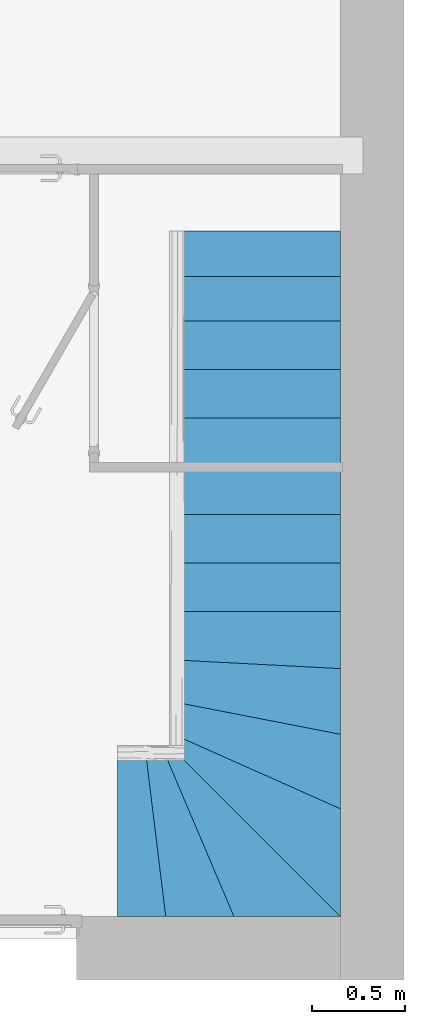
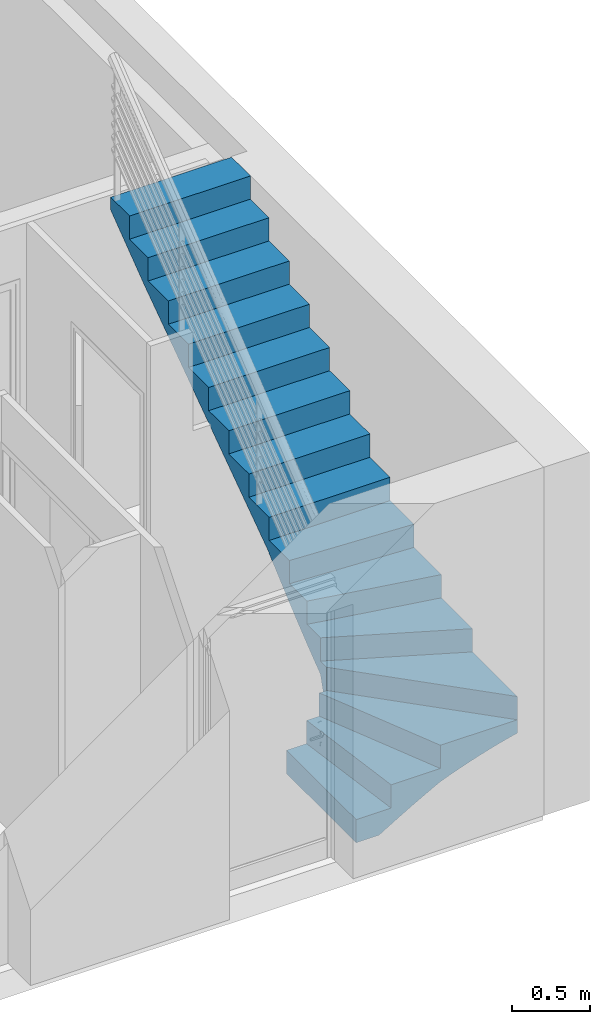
# One storey, part 9 of 9: 1 stair, 1 element without a shape of its own.
"""IFC2X3 building model written with IfcOpenShell, lengths in metres."""

from ifc_helpers import new_model, entity, si_unit, converted_unit, derived_unit, direction, frame, origin, place, context, subcontext, project, spatial, faceted_brep, material, element, aggregate, save


model = new_model("IFC2X3")

# Units and contexts
model_context = context("Model", 3, precision=1e-05, world=origin(), true_north=direction((6.12303176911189e-17, 1.0)))
body_context = subcontext(model_context, "Body", "Model", "MODEL_VIEW")
ifc_project = project(units=[si_unit("LENGTHUNIT", "METRE"), si_unit("AREAUNIT", "SQUARE_METRE"), si_unit("VOLUMEUNIT", "CUBIC_METRE"), converted_unit("PLANEANGLEUNIT", "DEGREE", entity("IfcRatioMeasure", 0.0174532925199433), si_unit("PLANEANGLEUNIT", "RADIAN"), dimensions=[0, 0, 0, 0, 0, 0, 0]), si_unit("MASSUNIT", "GRAM", prefix="KILO"), si_unit("TIMEUNIT", "SECOND"), si_unit("FREQUENCYUNIT", "HERTZ"), si_unit("THERMODYNAMICTEMPERATUREUNIT", "DEGREE_CELSIUS"), derived_unit("THERMALTRANSMITTANCEUNIT", [(si_unit("MASSUNIT", "GRAM", prefix="KILO"), 1), (si_unit("THERMODYNAMICTEMPERATUREUNIT", "KELVIN"), -1), (si_unit("TIMEUNIT", "SECOND"), -3)]), derived_unit("VOLUMETRICFLOWRATEUNIT", [(si_unit("LENGTHUNIT", "METRE"), 3), (si_unit("TIMEUNIT", "SECOND"), -1)]), si_unit("ELECTRICCURRENTUNIT", "AMPERE"), si_unit("ELECTRICVOLTAGEUNIT", "VOLT"), si_unit("POWERUNIT", "WATT"), si_unit("FORCEUNIT", "NEWTON", prefix="KILO"), si_unit("ILLUMINANCEUNIT", "LUX"), si_unit("LUMINOUSFLUXUNIT", "LUMEN"), si_unit("LUMINOUSINTENSITYUNIT", "CANDELA"), derived_unit("USERDEFINED", [(si_unit("MASSUNIT", "GRAM", prefix="KILO"), -1), (si_unit("LENGTHUNIT", "METRE"), -2), (si_unit("TIMEUNIT", "SECOND"), 3), (si_unit("LUMINOUSFLUXUNIT", "LUMEN"), 1)]), derived_unit("LINEARVELOCITYUNIT", [(si_unit("LENGTHUNIT", "METRE"), 1), (si_unit("TIMEUNIT", "SECOND"), -1)]), si_unit("PRESSUREUNIT", "PASCAL"), derived_unit("USERDEFINED", [(si_unit("LENGTHUNIT", "METRE"), -2), (si_unit("MASSUNIT", "GRAM", prefix="KILO"), 1), (si_unit("TIMEUNIT", "SECOND"), -2)])], contexts=[model_context])

# Site, building, storey
site_placement = place(None, origin())
site = spatial("IfcSite", under=ifc_project, at=site_placement, Name="Surface", CompositionType="ELEMENT")
building_placement = place(site_placement, origin())
building = spatial("IfcBuilding", under=site, at=building_placement, CompositionType="ELEMENT")
storey_placement = place(building_placement, origin())
storey = spatial("IfcBuildingStorey", under=building, at=storey_placement, Name="Rez de chaussée", CompositionType="ELEMENT", Elevation=0.0)

# Stairs
stair_1_placement = place(storey_placement, frame((0.223911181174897, -2.47733948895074, -0.0015952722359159)))
stair_1 = element("IfcStair", 1, at=stair_1_placement, inside=storey, Name="Escalier:Monobloc", ObjectType="Escalier:Monobloc", ShapeType="NOTDEFINED")
ifc_material = material(Name="Maçonnerie - Béton")
stair_2_placement = place(stair_1_placement, origin())
stair_2 = element("IfcStair", 2, at=stair_2_placement, material=ifc_material, Name="Escalier:Monobloc", ObjectType="Escalier:Monobloc", ShapeType="NOTDEFINED", context=body_context, shape_type="Brep", body=[
    faceted_brep([(0.261275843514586, 0.901595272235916, 0.312832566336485), (0.333895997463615, 0.763920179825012, 0.30809771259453), (0.272203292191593, 0.837137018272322, 0.262732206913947), (0.244842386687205, 0.901595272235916, 0.262732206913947), (0.834293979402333, 0.283330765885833, 0.413671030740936), (0.881973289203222, 0.14435942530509, 0.39000664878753), (0.759369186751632, 0.25462048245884, 0.375443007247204), (1.01269917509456, 0.202790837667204, 0.448129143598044), (0.945689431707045, 0.370151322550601, 0.482330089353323), (1.07574269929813, 0.315547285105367, 0.501353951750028), (0.770753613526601, 0.53572815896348, 0.488425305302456), (0.811462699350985, 0.581363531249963, 0.527283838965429), (0.989789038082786, 0.428165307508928, 0.517711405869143), (0.399995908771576, 0.688437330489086, 0.335213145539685), (0.399092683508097, 0.626159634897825, 0.299533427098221), (1.00745466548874, 0.593819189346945, 0.59309405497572), (1.05192171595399, 0.496353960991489, 0.561864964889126), (0.910863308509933, 0.583491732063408, 0.561720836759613), (1.19999999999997, 0.0754166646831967, 0.463214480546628), (1.12699149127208, 0.00159527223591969, 0.42686933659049), (0.299564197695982, 0.772678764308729, 0.262732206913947), (0.32692510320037, 0.708220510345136, 0.262732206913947), (0.518642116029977, 0.45262458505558, 0.318963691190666), (0.583670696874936, 0.494784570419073, 0.375738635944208), (0.616975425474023, 0.372201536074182, 0.347352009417), (0.479089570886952, 0.618209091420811, 0.364897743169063), (0.595158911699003, 0.57099098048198, 0.419007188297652), (0.656637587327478, 0.568603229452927, 0.452061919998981), (0.697588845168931, 0.453854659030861, 0.418618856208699), (0.2794675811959, 0.901595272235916, 0.362338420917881), (0.407688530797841, 0.744821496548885, 0.384146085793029), (0.299999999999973, 0.921954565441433, 0.452585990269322), (0.400594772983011, 0.80634088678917, 0.434307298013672), (0.299999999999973, 0.901595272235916, 0.410913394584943), (0.409007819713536, 0.514845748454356, 0.262732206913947), (0.381646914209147, 0.579304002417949, 0.262732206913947), (0.354286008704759, 0.643762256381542, 0.262732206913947), (0.69693426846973, 0.00159527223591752, 0.290123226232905), (0.64744049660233, 0.227523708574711, 0.319342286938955), (0.749555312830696, 0.13354068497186, 0.338786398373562), (0.429202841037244, 0.816334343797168, 0.476365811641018), (0.587403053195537, 0.683275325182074, 0.48231978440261), (0.521421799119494, 0.682043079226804, 0.437352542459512), (0.490706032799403, 0.322376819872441, 0.262732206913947), (0.463473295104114, 0.386533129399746, 0.262732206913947), (0.436240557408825, 0.450689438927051, 0.262732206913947), (1.19999999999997, 0.510121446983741, 0.600344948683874), (1.19999999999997, 0.438829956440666, 0.573976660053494), (0.572404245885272, 0.129907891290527, 0.262732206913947), (0.545171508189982, 0.194064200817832, 0.262732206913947), (0.517938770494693, 0.258220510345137, 0.262732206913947), (0.62686972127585, 0.00159527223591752, 0.262732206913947), (0.599636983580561, 0.0657515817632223, 0.262732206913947), (0.685161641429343, 0.384680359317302, 0.385674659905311), (1.19999999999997, 0.367034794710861, 0.549012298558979), (0.851654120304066, 0.371220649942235, 0.450472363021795), (0.762402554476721, 0.477232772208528, 0.457864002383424), (0.838545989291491, 0.00159527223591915, 0.341060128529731), (0.767501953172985, 0.00159527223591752, 0.316253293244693), (1.19999999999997, 0.294760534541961, 0.525470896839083), (1.19999999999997, 0.222040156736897, 0.503346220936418), (1.05430493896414, 0.00159527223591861, 0.407393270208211), (0.910047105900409, 0.00159527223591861, 0.364517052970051), (0.981977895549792, 0.00159527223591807, 0.386621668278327), (0.550979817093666, 0.815667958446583, 0.570549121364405), (0.668550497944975, 0.683149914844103, 0.526269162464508), (0.47426736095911, 0.818209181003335, 0.519605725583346), (0.299999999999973, 0.939595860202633, 0.495475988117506), (0.299999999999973, 0.968980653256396, 0.583455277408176), (0.411145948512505, 0.893845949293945, 0.562380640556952), (0.299999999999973, 0.955108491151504, 0.539188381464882), (0.691127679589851, 0.80745400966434, 0.628065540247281), (0.769353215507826, 0.772625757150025, 0.628065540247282), (0.847578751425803, 0.737797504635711, 0.628065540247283), (0.92580428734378, 0.702969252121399, 0.628065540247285), (0.781549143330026, 0.701350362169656, 0.584737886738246), (0.612902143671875, 0.842282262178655, 0.628065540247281), (0.464703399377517, 0.884753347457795, 0.594394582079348), (1.1346766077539, 0.609973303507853, 0.628065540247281), (1.00402982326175, 0.668140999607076, 0.62806554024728), (1.06935321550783, 0.639057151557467, 0.628065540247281), (0.456451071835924, 0.911938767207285, 0.628065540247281), (0.534676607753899, 0.87711051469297, 0.628065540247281), (0.378225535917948, 0.9467670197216, 0.62806554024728), (0.299999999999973, 0.981595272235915, 0.62806554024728), (1.19999999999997, 0.148911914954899, 0.482609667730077), (1.19999999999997, 0.00159527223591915, 0.445100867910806), (1.19999999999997, 0.58088945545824, 0.62806554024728), (1.19999999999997, 1.64159527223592, 1.18249171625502), (1.19999999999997, 1.64159527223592, 1.17606554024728), (0.749999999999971, 1.64159527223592, 1.17606554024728), (0.299999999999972, 1.64159527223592, 1.17606554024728), (0.299999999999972, 1.64159527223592, 1.18249171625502), (1.19999999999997, 1.40881963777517, 1.04864399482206), (0.664438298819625, 1.42047587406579, 1.02017071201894), (0.746181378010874, 1.50325919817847, 1.08238395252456), (0.299999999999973, 1.05787997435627, 0.68531090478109), (0.762952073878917, 0.910195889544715, 0.70558478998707), (1.19999999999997, 0.701145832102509, 0.684197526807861), (0.299999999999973, 1.13317758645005, 0.743817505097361), (0.299999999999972, 1.28116853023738, 0.864031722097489), (0.299999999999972, 1.35410993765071, 0.925460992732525), (0.654456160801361, 1.2438718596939, 0.897101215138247), (0.299999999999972, 1.57008087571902, 1.11300047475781), (1.19999999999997, 1.17504843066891, 0.923069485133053), (0.740825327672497, 1.31871291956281, 0.958455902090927), (1.19999999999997, 0.820627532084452, 0.741915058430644), (0.803850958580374, 1.00799830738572, 0.772090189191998), (1.19999999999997, 0.939384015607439, 0.801074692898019), (0.299999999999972, 1.42648379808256, 0.987538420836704), (0.299999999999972, 1.49842675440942, 1.05010521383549), (0.737399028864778, 1.13247940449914, 0.836930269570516), (1.19999999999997, 1.05748724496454, 0.861515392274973), (0.299999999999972, 1.20757274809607, 0.803440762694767), (1.19999999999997, 1.52527025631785, 1.11223698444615), (1.19999999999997, 1.29212060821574, 0.985515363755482), (0.299999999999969, 3.20159527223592, 2.27849171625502), (1.19999999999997, 3.20159527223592, 2.27849171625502), (0.260000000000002, 0.00159527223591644, 0.184261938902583), (0.149999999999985, 0.901595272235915, 0.184261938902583), (0.0, 0.901595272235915, 0.184261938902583), (0.0, 0.00159527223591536, 0.184261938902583), (0.260000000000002, 0.00159527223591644, 0.366928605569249), (0.62686972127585, 0.00159527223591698, 0.366928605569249), (0.244842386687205, 0.901595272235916, 0.366928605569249), (0.149999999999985, 0.901595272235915, 0.366928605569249), (0.62686972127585, 0.00159527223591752, 0.549595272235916), (1.19999999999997, 0.00159527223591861, 0.549595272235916), (0.299999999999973, 0.901595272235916, 0.549595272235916), (0.244842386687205, 0.901595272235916, 0.549595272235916), (1.19999999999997, 3.44159527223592, 2.55892860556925), (0.299999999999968, 3.44159527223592, 2.55892860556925), (0.299999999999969, 3.20159527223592, 2.55892860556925), (1.19999999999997, 3.20159527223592, 2.55892860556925), (1.19999999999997, 3.68542903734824, 2.74159527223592), (0.299999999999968, 3.68542903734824, 2.74159527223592), (0.299999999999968, 3.44159527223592, 2.74159527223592), (1.19999999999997, 3.44159527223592, 2.74159527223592), (0.0, 0.901595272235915, 0.0015952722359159), (0.0663294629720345, 0.901595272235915, 0.0015952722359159), (0.077828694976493, 0.801595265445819, 0.0015952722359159), (0.0893279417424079, 0.701595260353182, 0.0015952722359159), (0.100827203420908, 0.601595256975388, 0.0015952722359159), (0.112326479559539, 0.501595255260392, 0.0015952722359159), (0.123825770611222, 0.401595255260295, 0.0015952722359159), (0.135325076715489, 0.301595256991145, 0.0015952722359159), (0.146824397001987, 0.201595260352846, 0.0015952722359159), (0.158323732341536, 0.101595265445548, 0.0015952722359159), (0.169823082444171, 0.0015952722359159, 0.0015952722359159), (0.0, 0.00159527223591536, 0.0015952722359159), (0.100708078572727, 0.901595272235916, 0.054709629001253), (0.135577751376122, 0.901595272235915, 0.10749856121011), (0.212886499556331, 0.466992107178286, 0.0862027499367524), (0.273171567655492, 0.670026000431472, 0.193972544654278), (0.224996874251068, 0.651636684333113, 0.139213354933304), (0.171108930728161, 0.901595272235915, 0.15984700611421), (0.284177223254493, 0.233029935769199, 0.101572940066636), (0.208017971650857, 0.261158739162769, 0.0514386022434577), (0.234177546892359, 0.0015952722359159, 0.040520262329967), (0.207470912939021, 0.901595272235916, 0.211630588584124), (0.372163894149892, 0.462828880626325, 0.217071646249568), (0.401160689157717, 0.217439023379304, 0.177715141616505), (0.320153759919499, 0.445253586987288, 0.170874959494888), (0.36363235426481, 0.00159527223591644, 0.117117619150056), (0.298762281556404, 0.00159527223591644, 0.0790606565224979), (0.428837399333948, 0.00159527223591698, 0.154596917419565), (0.494420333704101, 0.00159527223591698, 0.191410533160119), (0.560416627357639, 0.00159527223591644, 0.227477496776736), (0.299999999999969, 3.20159527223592, 2.27601755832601), (0.299999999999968, 3.68542903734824, 2.64135089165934), (1.19999999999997, 3.68542903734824, 2.64135089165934), (1.19999999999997, 3.20159527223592, 2.27601755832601), (0.299999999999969, 3.20159527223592, 2.37626193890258), (1.19999999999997, 3.20159527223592, 2.37626193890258), (0.299999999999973, 0.981595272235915, 0.732261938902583), (0.299999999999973, 0.901595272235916, 0.732261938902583), (1.19999999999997, 0.00159527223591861, 0.732261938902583), (1.19999999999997, 0.580889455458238, 0.732261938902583), (1.19999999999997, 2.16159527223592, 1.64559527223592), (1.19999999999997, 1.90159527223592, 1.64559527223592), (1.19999999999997, 1.90159527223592, 1.46292860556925), (1.19999999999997, 1.64159527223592, 1.46292860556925), (1.19999999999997, 1.64159527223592, 1.28026193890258), (1.19999999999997, 1.33442827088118, 1.28026193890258), (1.19999999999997, 1.33442827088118, 1.09759527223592), (1.19999999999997, 0.98125338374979, 1.09759527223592), (1.19999999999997, 0.98125338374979, 0.914928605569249), (1.19999999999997, 0.580889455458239, 0.914928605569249), (1.19999999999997, 2.94159527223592, 2.37626193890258), (1.19999999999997, 2.94159527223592, 2.19359527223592), (1.19999999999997, 2.68159527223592, 2.19359527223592), (1.19999999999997, 2.68159527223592, 2.01092860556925), (1.19999999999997, 2.42159527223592, 2.01092860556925), (1.19999999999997, 2.42159527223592, 1.82826193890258), (1.19999999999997, 2.16159527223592, 1.82826193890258), (0.299999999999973, 0.981595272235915, 0.914928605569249), (0.299999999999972, 1.15619566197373, 0.914928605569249), (0.299999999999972, 1.15619566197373, 1.09759527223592), (0.299999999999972, 1.38159527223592, 1.09759527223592), (0.299999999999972, 1.38159527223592, 1.28026193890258), (0.299999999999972, 1.64159527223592, 1.28026193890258), (0.299999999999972, 1.64159527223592, 1.46292860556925), (0.299999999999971, 1.90159527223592, 1.46292860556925), (0.299999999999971, 1.90159527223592, 1.64559527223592), (0.299999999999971, 2.16159527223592, 1.64559527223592), (0.299999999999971, 2.16159527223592, 1.82826193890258), (0.29999999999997, 2.42159527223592, 1.82826193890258), (0.29999999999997, 2.42159527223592, 2.01092860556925), (0.29999999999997, 2.68159527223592, 2.01092860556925), (0.29999999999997, 2.68159527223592, 2.19359527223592), (0.299999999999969, 2.94159527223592, 2.19359527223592), (0.299999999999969, 2.94159527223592, 2.37626193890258)], [[[0, 1, 2]], [[0, 2, 3]], [[4, 5, 6]], [[7, 8, 9]], [[10, 11, 12]], [[1, 13, 14]], [[15, 16, 17]], [[18, 19, 7]], [[20, 2, 1, 21]], [[22, 23, 24]], [[22, 13, 25]], [[26, 27, 28]], [[7, 5, 4]], [[29, 30, 13]], [[31, 32, 33]], [[21, 14, 34, 35, 36]], [[37, 38, 39]], [[29, 13, 1]], [[40, 41, 42]], [[22, 43, 44, 45, 34]], [[16, 46, 47]], [[38, 43, 22]], [[48, 49, 50, 43, 38]], [[37, 51, 52, 48]], [[28, 53, 23]], [[12, 17, 16]], [[16, 54, 12]], [[8, 55, 56]], [[48, 38, 37]], [[57, 58, 39]], [[13, 22, 14]], [[59, 60, 9]], [[39, 58, 37]], [[61, 7, 19]], [[39, 62, 57]], [[62, 39, 5]], [[61, 5, 7]], [[32, 30, 33]], [[63, 5, 61]], [[64, 65, 66]], [[40, 31, 67]], [[29, 1, 0]], [[68, 69, 70]], [[33, 30, 29]], [[54, 16, 47]], [[71, 72, 73, 74, 75]], [[13, 30, 25]], [[74, 15, 75]], [[76, 64, 77]], [[78, 15, 74, 79, 80]], [[53, 4, 6]], [[81, 82, 76, 77, 83]], [[84, 83, 68]], [[40, 67, 66]], [[55, 4, 28]], [[64, 76, 71]], [[10, 65, 11]], [[32, 40, 42]], [[70, 66, 67]], [[8, 10, 12]], [[7, 9, 85]], [[9, 12, 54]], [[85, 9, 60]], [[64, 69, 77]], [[19, 18, 86]], [[8, 12, 9]], [[75, 17, 11]], [[34, 14, 22]], [[63, 62, 5]], [[71, 75, 64]], [[8, 7, 55]], [[75, 15, 17]], [[65, 64, 75]], [[30, 42, 26]], [[16, 15, 46]], [[78, 87, 46]], [[66, 70, 69]], [[78, 46, 15]], [[28, 27, 56]], [[41, 66, 65]], [[59, 9, 54]], [[42, 27, 26]], [[42, 41, 27]], [[18, 7, 85]], [[1, 14, 21]], [[7, 4, 55]], [[40, 32, 31]], [[30, 32, 42]], [[66, 41, 40]], [[10, 41, 65]], [[41, 10, 27]], [[56, 27, 10]], [[28, 23, 26]], [[26, 23, 25]], [[68, 83, 77]], [[66, 69, 64]], [[68, 77, 69]], [[24, 23, 53]], [[38, 6, 39]], [[5, 39, 6]], [[75, 11, 65]], [[12, 11, 17]], [[26, 25, 30]], [[22, 25, 23]], [[4, 53, 28]], [[24, 6, 38]], [[6, 24, 53]], [[38, 22, 24]], [[8, 56, 10]], [[28, 56, 55]], [[88, 89, 90, 91, 92]], [[93, 94, 95]], [[83, 84, 96, 82, 81]], [[96, 97, 82]], [[82, 97, 74, 73, 72, 71, 76]], [[74, 97, 98]], [[99, 97, 96]], [[100, 101, 102]], [[98, 87, 78, 80, 79, 74]], [[90, 103, 91]], [[104, 102, 105]], [[106, 107, 108]], [[109, 110, 94]], [[108, 111, 112]], [[97, 106, 98]], [[111, 113, 100]], [[99, 113, 107]], [[101, 105, 102]], [[110, 103, 95]], [[110, 95, 94]], [[105, 101, 109]], [[114, 95, 90]], [[109, 94, 105]], [[111, 102, 112]], [[104, 105, 115]], [[97, 107, 106]], [[100, 102, 111]], [[107, 111, 108]], [[103, 90, 95]], [[89, 114, 90]], [[115, 94, 93]], [[99, 107, 97]], [[115, 105, 94]], [[112, 102, 104]], [[93, 95, 114]], [[111, 107, 113]], [[92, 116, 117, 88]], [[118, 119, 120, 121]], [[122, 123, 124, 125]], [[126, 127, 128, 129]], [[130, 131, 132, 133]], [[134, 135, 136, 137]], [[138, 139, 140, 141, 142, 143, 144, 145, 146, 147, 148, 149]], [[150, 141, 140]], [[150, 142, 141]], [[140, 139, 150]], [[151, 152, 150]], [[153, 154, 155]], [[155, 154, 151]], [[152, 142, 150]], [[156, 157, 152]], [[147, 146, 157]], [[143, 157, 144]], [[158, 148, 147]], [[153, 159, 20]], [[152, 157, 143]], [[157, 158, 147]], [[151, 154, 152]], [[146, 145, 157]], [[160, 161, 162]], [[156, 163, 164]], [[34, 45, 44, 43, 50, 160, 36, 35]], [[153, 36, 160]], [[161, 163, 156]], [[155, 159, 153]], [[157, 164, 158]], [[3, 2, 20, 159]], [[156, 162, 161]], [[143, 142, 152]], [[21, 36, 153, 20]], [[161, 165, 163]], [[161, 166, 165]], [[160, 50, 161]], [[162, 153, 160]], [[162, 156, 152]], [[167, 166, 161]], [[161, 50, 49]], [[49, 167, 161]], [[157, 145, 144]], [[153, 162, 154]], [[162, 152, 154]], [[52, 51, 167, 49, 48]], [[157, 156, 164]], [[168, 169, 170, 171]], [[168, 171, 117, 116]], [[133, 132, 172, 173]], [[58, 57, 62, 63, 61, 19, 86, 127, 126, 123, 122, 118, 121, 149, 148, 158, 164, 163, 165, 166, 167, 51, 37]], [[121, 120, 138, 149]], [[129, 128, 33, 29, 0, 3, 159, 155, 151, 150, 139, 138, 120, 119, 125, 124]], [[122, 125, 119, 118]], [[126, 129, 124, 123]], [[174, 175, 176, 177]], [[178, 179, 180, 181, 182, 183, 184, 185, 186, 187, 177, 176, 127, 86, 18, 85, 60, 59, 54, 47, 46, 87, 98, 106, 108, 112, 104, 115, 93, 114, 89, 88, 117, 171, 170, 134, 137, 130, 133, 173, 188, 189, 190, 191, 192, 193, 194]], [[176, 175, 128, 127]], [[135, 169, 168, 116, 92, 91, 103, 110, 109, 101, 100, 113, 99, 96, 84, 68, 70, 67, 31, 33, 128, 175, 174, 195, 196, 197, 198, 199, 200, 201, 202, 203, 204, 205, 206, 207, 208, 209, 210, 211, 172, 132, 131, 136]], [[196, 195, 187, 186]], [[187, 195, 174, 177]], [[184, 198, 197, 185]], [[185, 197, 196, 186]], [[182, 200, 199, 183]], [[183, 199, 198, 184]], [[180, 202, 201, 181]], [[181, 201, 200, 182]], [[178, 204, 203, 179]], [[179, 203, 202, 180]], [[193, 206, 205, 194]], [[194, 205, 204, 178]], [[191, 208, 207, 192]], [[192, 207, 206, 193]], [[189, 210, 209, 190]], [[190, 209, 208, 191]], [[173, 172, 211, 188]], [[188, 211, 210, 189]], [[137, 136, 131, 130]], [[135, 134, 170, 169]]]),
])
aggregate(stair_1, [stair_2])

save(model, "model.ifc")
